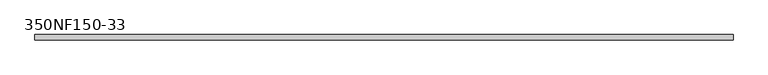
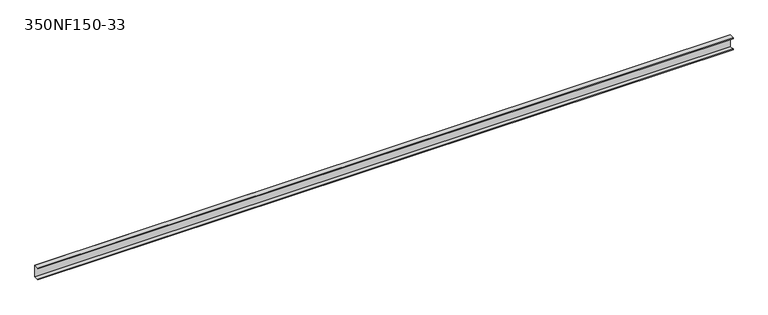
"""IFC4 building model written with IfcOpenShell, lengths in millimetres: beam geometry, BIMSF-SSMA-S : 350NF150-33."""

from ifc_helpers import new_model, si_unit, frame, origin, place, context, project, spatial, polyline, outline, extrude, source, transform, mapped, element, save


def beam_350nf150_33_556560cf(model_context):
    return source(origin(), model_context, "Body", "SweptSolid", [
        extrude(outline(polyline([(19.05, 44.45), (19.05, -44.45), (-19.05, -44.45), (-19.05, -39.6748), (-18.1676842, -39.6748), (-18.1676842, -43.5676842), (18.1676842, -43.5676842), (18.1676842, 43.5676842), (-18.1676842, 43.5676842), (-18.1676842, 39.6748), (-19.05, 39.6748), (-19.05, 44.45), (19.05, 44.45)])), frame((-2501.9, 0.0, 0.0), z_axis=(1.0, 0.0, 0.0), x_axis=(0.0, 1.0, 0.0)), (0.0, 0.0, 1.0), 5003.8),
    ])


if __name__ == "__main__":
    model = new_model("IFC4")
    model_context = context("Model", 3, world=origin())
    ifc_project = project(units=[si_unit("LENGTHUNIT", "METRE", prefix="MILLI")], contexts=[model_context])
    site = spatial("IfcSite", under=ifc_project)
    building = spatial("IfcBuilding", under=site)
    placement = place(None, origin())
    beam_350nf150_33_shape = beam_350nf150_33_556560cf(model_context)
    element("IfcBeam", 1, ObjectType="BIMSF-SSMA-S : 350NF150-33", at=placement, inside=building, context=model_context, shape_type="MappedRepresentation", body=[
        mapped(beam_350nf150_33_shape, transform((0.0, 0.0, 0.0), x_axis=(1.0, 0.0, 0.0), y_axis=(0.0, 1.0, 0.0), z_axis=(0.0, 0.0, 1.0))),
    ])
    save(model, "model.ifc")
